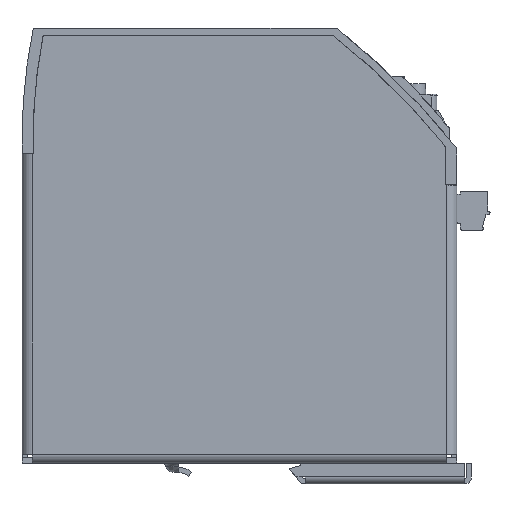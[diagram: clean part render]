
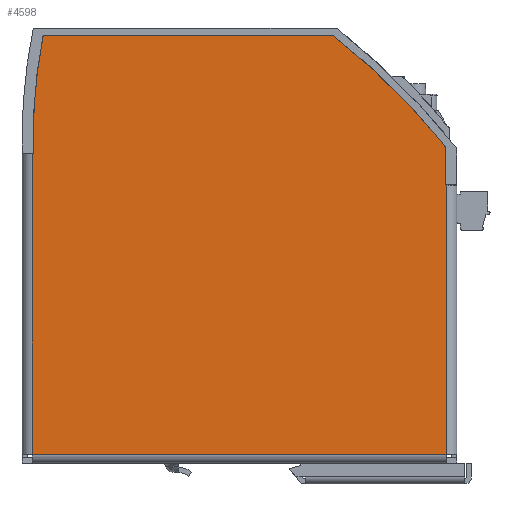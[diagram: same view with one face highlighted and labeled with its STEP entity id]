
A CAD part, left-side view. The second image highlights one B-rep face of the part: STEP entity #4598.
In plain terms, the highlighted planar face has unit normal (-1, 0, 0).
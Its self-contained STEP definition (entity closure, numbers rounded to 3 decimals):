
#4598 = ADVANCED_FACE( '', ( #9385 ), #9386, .T. );
#9385 = FACE_OUTER_BOUND( '', #15643, .T. );
#9386 = PLANE( '', #15644 );
#15643 = EDGE_LOOP( '', ( #24290, #24291, #24292, #24293, #24294, #24295, #24296, #24297, #24298, #24299 ) );
#15644 = AXIS2_PLACEMENT_3D( '', #24300, #24301, #24302 );
#24290 = ORIENTED_EDGE( '', *, *, #44309, .T. );
#24291 = ORIENTED_EDGE( '', *, *, #44310, .T. );
#24292 = ORIENTED_EDGE( '', *, *, #44311, .F. );
#24293 = ORIENTED_EDGE( '', *, *, #44312, .T. );
#24294 = ORIENTED_EDGE( '', *, *, #44313, .T. );
#24295 = ORIENTED_EDGE( '', *, *, #44314, .T. );
#24296 = ORIENTED_EDGE( '', *, *, #44315, .F. );
#24297 = ORIENTED_EDGE( '', *, *, #44316, .F. );
#24298 = ORIENTED_EDGE( '', *, *, #44317, .F. );
#24299 = ORIENTED_EDGE( '', *, *, #44318, .T. );
#24300 = CARTESIAN_POINT( '', ( -70., 0., 0. ) );
#24301 = DIRECTION( '', ( -1., 0., 0. ) );
#24302 = DIRECTION( '', ( 0., 0., 1. ) );
#44309 = EDGE_CURVE( '', #52103, #52104, #52105, .T. );
#44310 = EDGE_CURVE( '', #52104, #52106, #52107, .T. );
#44311 = EDGE_CURVE( '', #52108, #52106, #52109, .T. );
#44312 = EDGE_CURVE( '', #52108, #52110, #52111, .T. );
#44313 = EDGE_CURVE( '', #52110, #52112, #52113, .T. );
#44314 = EDGE_CURVE( '', #52112, #52114, #52115, .T. );
#44315 = EDGE_CURVE( '', #52116, #52114, #52117, .T. );
#44316 = EDGE_CURVE( '', #52118, #52116, #52119, .T. );
#44317 = EDGE_CURVE( '', #52120, #52118, #52121, .T. );
#44318 = EDGE_CURVE( '', #52120, #52103, #52122, .T. );
#52103 = VERTEX_POINT( '', #65307 );
#52104 = VERTEX_POINT( '', #65308 );
#52105 = CIRCLE( '', #65309, 157.8 );
#52106 = VERTEX_POINT( '', #65310 );
#52107 = LINE( '', #65311, #65312 );
#52108 = VERTEX_POINT( '', #65313 );
#52109 = LINE( '', #65314, #65315 );
#52110 = VERTEX_POINT( '', #65316 );
#52111 = LINE( '', #65317, #65318 );
#52112 = VERTEX_POINT( '', #65319 );
#52113 = LINE( '', #65320, #65321 );
#52114 = VERTEX_POINT( '', #65322 );
#52115 = LINE( '', #65323, #65324 );
#52116 = VERTEX_POINT( '', #65325 );
#52117 = LINE( '', #65326, #65327 );
#52118 = VERTEX_POINT( '', #65328 );
#52119 = LINE( '', #65329, #65330 );
#52120 = VERTEX_POINT( '', #65331 );
#52121 = CIRCLE( '', #65332, 197.8 );
#52122 = LINE( '', #65333, #65334 );
#65307 = CARTESIAN_POINT( '', ( -70., 122.8, 6.06 ) );
#65308 = CARTESIAN_POINT( '', ( -70., 89., 3.2 ) );
#65309 = AXIS2_PLACEMENT_3D( '', #83260, #83261, #83262 );
#65310 = CARTESIAN_POINT( '', ( -70., 89., 3. ) );
#65311 = CARTESIAN_POINT( '', ( -70., 89., 0. ) );
#65312 = VECTOR( '', #83263, 1000. );
#65313 = CARTESIAN_POINT( '', ( -70., 2.5, 3. ) );
#65314 = CARTESIAN_POINT( '', ( -70., 90., 3. ) );
#65315 = VECTOR( '', #83264, 1000. );
#65316 = CARTESIAN_POINT( '', ( -70., 2.5, 122. ) );
#65317 = CARTESIAN_POINT( '', ( -70., 2.5, 0. ) );
#65318 = VECTOR( '', #83265, 1000. );
#65319 = CARTESIAN_POINT( '', ( -70., 79.9, 122. ) );
#65320 = CARTESIAN_POINT( '', ( -70., 80.9, 122. ) );
#65321 = VECTOR( '', #83266, 1000. );
#65322 = CARTESIAN_POINT( '', ( -70., 80., 122. ) );
#65323 = CARTESIAN_POINT( '', ( -70., 80.9, 122. ) );
#65324 = VECTOR( '', #83267, 1000. );
#65325 = CARTESIAN_POINT( '', ( -70., 80., 121.8 ) );
#65326 = CARTESIAN_POINT( '', ( -70., 80., 0. ) );
#65327 = VECTOR( '', #83268, 1000. );
#65328 = CARTESIAN_POINT( '', ( -70., 90.81, 121.8 ) );
#65329 = CARTESIAN_POINT( '', ( -70., 0., 121.8 ) );
#65330 = VECTOR( '', #83269, 1000. );
#65331 = CARTESIAN_POINT( '', ( -70., 122.8, 89.55 ) );
#65332 = AXIS2_PLACEMENT_3D( '', #83270, #83271, #83272 );
#65333 = CARTESIAN_POINT( '', ( -70., 122.8, 125. ) );
#65334 = VECTOR( '', #83273, 1000. );
#83260 = CARTESIAN_POINT( '', ( -70., 92.672, 160.957 ) );
#83261 = DIRECTION( '', ( -1., 0., 0. ) );
#83262 = DIRECTION( '', ( 0., -1., 0. ) );
#83263 = DIRECTION( '', ( 0., 0., -1. ) );
#83264 = DIRECTION( '', ( 0., 1., 0. ) );
#83265 = DIRECTION( '', ( 0., 0., 1. ) );
#83266 = DIRECTION( '', ( 0., 1., 0. ) );
#83267 = DIRECTION( '', ( 0., 1., 0. ) );
#83268 = DIRECTION( '', ( 0., 0., 1. ) );
#83269 = DIRECTION( '', ( 0., -1., 0. ) );
#83270 = CARTESIAN_POINT( '', ( -70., -32.697, -32.702 ) );
#83271 = DIRECTION( '', ( 1., 0., 0. ) );
#83272 = DIRECTION( '', ( 0., -1., 0. ) );
#83273 = DIRECTION( '', ( 0., 0., -1. ) );
